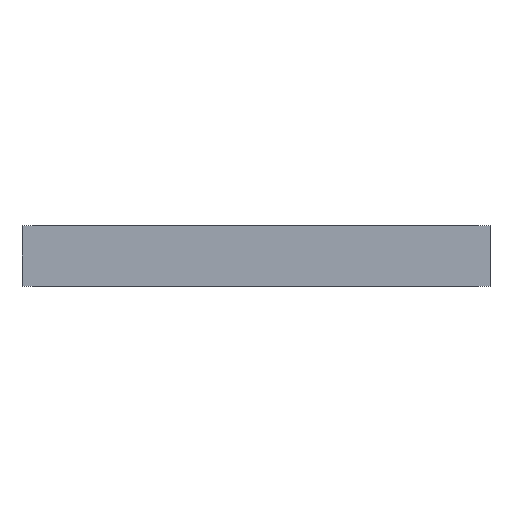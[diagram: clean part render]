
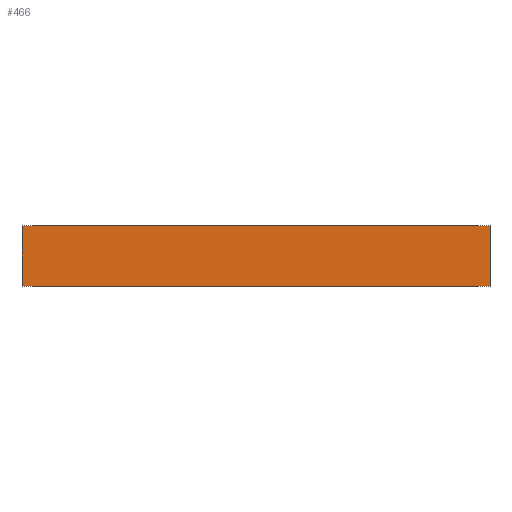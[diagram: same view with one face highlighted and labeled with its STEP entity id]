
A CAD part, front view. The second image highlights one B-rep face of the part: STEP entity #466.
In plain terms, the highlighted planar face has unit normal (0, -1, 0).
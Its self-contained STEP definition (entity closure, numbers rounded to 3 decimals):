
#40 = AXIS2_PLACEMENT_3D ( 'NONE', #597, #589, #588 ) ;
#61 = EDGE_CURVE ( 'NONE', #752, #732, #277, .T. ) ;
#83 = EDGE_CURVE ( 'NONE', #744, #716, #249, .T. ) ;
#106 = EDGE_CURVE ( 'NONE', #716, #732, #206, .T. ) ;
#116 = EDGE_CURVE ( 'NONE', #744, #752, #189, .T. ) ;
#165 = FACE_OUTER_BOUND ( 'NONE', #371, .T. ) ;
#188 = VECTOR ( 'NONE', #673, 1000. ) ;
#189 = LINE ( 'NONE', #675, #188 ) ;
#205 = VECTOR ( 'NONE', #698, 1000. ) ;
#206 = LINE ( 'NONE', #700, #205 ) ;
#240 = VECTOR ( 'NONE', #749, 1000. ) ;
#249 = LINE ( 'NONE', #753, #240 ) ;
#276 = VECTOR ( 'NONE', #799, 1000. ) ;
#277 = LINE ( 'NONE', #800, #276 ) ;
#371 = EDGE_LOOP ( 'NONE', ( #431, #432, #433, #438 ) ) ;
#431 = ORIENTED_EDGE ( 'NONE', *, *, #106, .T. ) ;
#432 = ORIENTED_EDGE ( 'NONE', *, *, #61, .F. ) ;
#433 = ORIENTED_EDGE ( 'NONE', *, *, #116, .F. ) ;
#438 = ORIENTED_EDGE ( 'NONE', *, *, #83, .T. ) ;
#466 = ADVANCED_FACE ( 'NONE', ( #165 ), #602, .F. ) ;
#528 = CARTESIAN_POINT ( 'NONE',  ( 251., 0., 65. ) ) ;
#531 = CARTESIAN_POINT ( 'NONE',  ( -251., 0., 65. ) ) ;
#535 = CARTESIAN_POINT ( 'NONE',  ( 251., 0., 0. ) ) ;
#540 = CARTESIAN_POINT ( 'NONE',  ( -251., 0., 0. ) ) ;
#588 = DIRECTION ( 'NONE',  ( -1., 0., 0. ) ) ;
#589 = DIRECTION ( 'NONE',  ( 0., 1., 0. ) ) ;
#597 = CARTESIAN_POINT ( 'NONE',  ( -251., 0., 65. ) ) ;
#602 = PLANE ( 'NONE',  #40 ) ;
#673 = DIRECTION ( 'NONE',  ( 1., 0., 0. ) ) ;
#675 = CARTESIAN_POINT ( 'NONE',  ( -251., 0., 65. ) ) ;
#698 = DIRECTION ( 'NONE',  ( 1., 0., 0. ) ) ;
#700 = CARTESIAN_POINT ( 'NONE',  ( -251., 0., 0. ) ) ;
#716 = VERTEX_POINT ( 'NONE', #540 ) ;
#732 = VERTEX_POINT ( 'NONE', #535 ) ;
#744 = VERTEX_POINT ( 'NONE', #531 ) ;
#749 = DIRECTION ( 'NONE',  ( 0., 0., -1. ) ) ;
#752 = VERTEX_POINT ( 'NONE', #528 ) ;
#753 = CARTESIAN_POINT ( 'NONE',  ( -251., 0., 65. ) ) ;
#799 = DIRECTION ( 'NONE',  ( 0., 0., -1. ) ) ;
#800 = CARTESIAN_POINT ( 'NONE',  ( 251., 0., 65. ) ) ;
